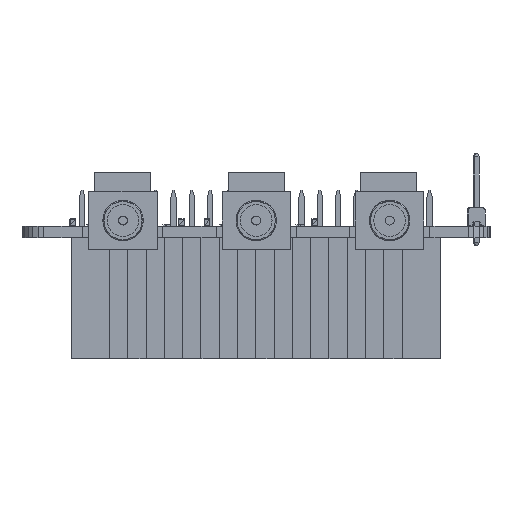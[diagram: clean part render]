
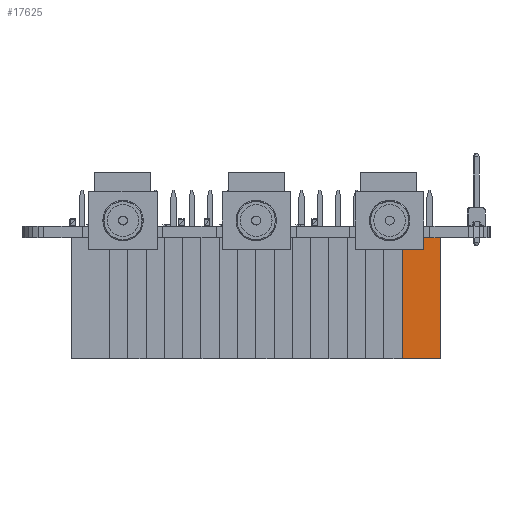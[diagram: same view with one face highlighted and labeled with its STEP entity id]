
A CAD part, front view. The second image highlights one B-rep face of the part: STEP entity #17625.
In plain terms, the highlighted free-form (B-spline) face has degree [1, 1] with [2, 2] control points.
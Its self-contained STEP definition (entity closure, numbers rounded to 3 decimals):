
#16514 = VERTEX_POINT('',#16515);
#16515 = CARTESIAN_POINT('',(-25.65,-2.54,23.4));
#16522 = EDGE_CURVE('',#16523,#16514,#16525,.T.);
#16523 = VERTEX_POINT('',#16524);
#16524 = CARTESIAN_POINT('',(-25.65,-2.54,6.4));
#16525 = B_SPLINE_CURVE_WITH_KNOTS('',1,(#16526,#16527),.UNSPECIFIED.,
  .F.,.F.,(2,2),(0.,8.5),.PIECEWISE_BEZIER_KNOTS.);
#16526 = CARTESIAN_POINT('',(-25.65,-2.54,6.4));
#16527 = CARTESIAN_POINT('',(-25.65,-2.54,23.4));
#16578 = EDGE_CURVE('',#16514,#16579,#16581,.T.);
#16579 = VERTEX_POINT('',#16580);
#16580 = CARTESIAN_POINT('',(-20.32,-2.54,23.4));
#16581 = B_SPLINE_CURVE_WITH_KNOTS('',1,(#16582,#16583),.UNSPECIFIED.,
  .F.,.F.,(2,2),(0.,5.33),.PIECEWISE_BEZIER_KNOTS.);
#16582 = CARTESIAN_POINT('',(-25.65,-2.54,23.4));
#16583 = CARTESIAN_POINT('',(-20.32,-2.54,23.4));
#16726 = EDGE_CURVE('',#16727,#16579,#16729,.T.);
#16727 = VERTEX_POINT('',#16728);
#16728 = CARTESIAN_POINT('',(-20.32,-2.54,6.4));
#16729 = B_SPLINE_CURVE_WITH_KNOTS('',1,(#16730,#16731),.UNSPECIFIED.,
  .F.,.F.,(2,2),(0.,8.5),.PIECEWISE_BEZIER_KNOTS.);
#16730 = CARTESIAN_POINT('',(-20.32,-2.54,6.4));
#16731 = CARTESIAN_POINT('',(-20.32,-2.54,23.4));
#17572 = EDGE_CURVE('',#16523,#16727,#17573,.T.);
#17573 = B_SPLINE_CURVE_WITH_KNOTS('',1,(#17574,#17575),.UNSPECIFIED.,
  .F.,.F.,(2,2),(-2.79,2.54),.PIECEWISE_BEZIER_KNOTS.);
#17574 = CARTESIAN_POINT('',(-25.65,-2.54,6.4));
#17575 = CARTESIAN_POINT('',(-20.32,-2.54,6.4));
#17625 = ADVANCED_FACE('',(#17626),#17632,.F.);
#17626 = FACE_BOUND('',#17627,.T.);
#17627 = EDGE_LOOP('',(#17628,#17629,#17630,#17631));
#17628 = ORIENTED_EDGE('',*,*,#17572,.T.);
#17629 = ORIENTED_EDGE('',*,*,#16726,.T.);
#17630 = ORIENTED_EDGE('',*,*,#16578,.F.);
#17631 = ORIENTED_EDGE('',*,*,#16522,.F.);
#17632 = B_SPLINE_SURFACE_WITH_KNOTS('',1,1,(
    (#17633,#17634)
    ,(#17635,#17636
    )),.UNSPECIFIED.,.F.,.F.,.F.,(2,2),(2,2),(0.,8.5),(0.,5.33
    ),.PIECEWISE_BEZIER_KNOTS.);
#17633 = CARTESIAN_POINT('',(-25.65,-2.54,6.4));
#17634 = CARTESIAN_POINT('',(-20.32,-2.54,6.4));
#17635 = CARTESIAN_POINT('',(-25.65,-2.54,23.4));
#17636 = CARTESIAN_POINT('',(-20.32,-2.54,23.4));
